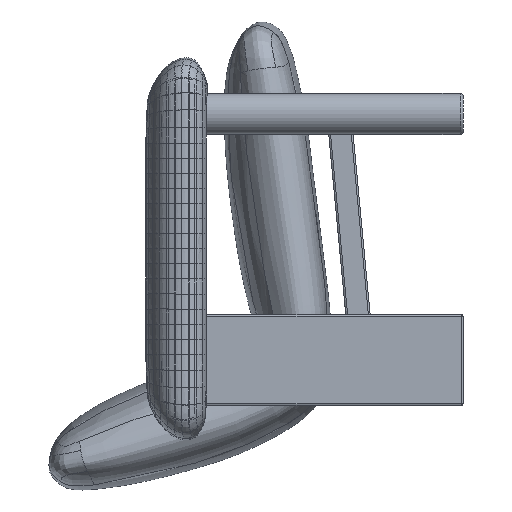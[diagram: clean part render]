
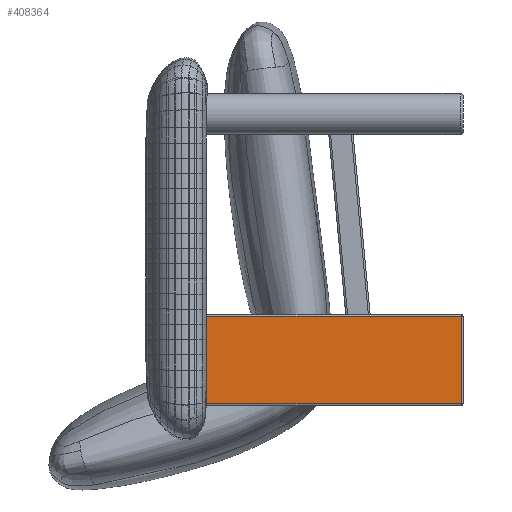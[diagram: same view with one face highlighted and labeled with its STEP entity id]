
A CAD part, left-side view. The second image highlights one B-rep face of the part: STEP entity #408364.
In plain terms, the highlighted planar face has unit normal (-1, 0, 0) as drawn and (1, 0, 0) by its records, which use the part's own axes.
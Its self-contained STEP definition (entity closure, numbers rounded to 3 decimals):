
#45889 = ORIENTED_EDGE ( 'NONE', *, *, #479339, .F. ) ;
#62338 = CARTESIAN_POINT ( 'NONE',  ( 765., 582.069, 333. ) ) ;
#102966 = VECTOR ( 'NONE', #577728, 1000. ) ;
#186983 = PLANE ( 'NONE',  #473923 ) ;
#202287 = VERTEX_POINT ( 'NONE', #555088 ) ;
#202822 = DIRECTION ( 'NONE',  ( 0., -1., 0. ) ) ;
#208187 = EDGE_CURVE ( 'NONE', #712758, #202287, #282500, .T. ) ;
#282500 = LINE ( 'NONE', #945642, #102966 ) ;
#285421 = ORIENTED_EDGE ( 'NONE', *, *, #671791, .F. ) ;
#318208 = EDGE_CURVE ( 'NONE', #495144, #202287, #457646, .T. ) ;
#351249 = FACE_OUTER_BOUND ( 'NONE', #579550, .T. ) ;
#352603 = CARTESIAN_POINT ( 'NONE',  ( 765., 430., 333. ) ) ;
#404934 = ORIENTED_EDGE ( 'NONE', *, *, #208187, .T. ) ;
#408364 = ADVANCED_FACE ( 'NONE', ( #351249 ), #186983, .F. ) ;
#409747 = VECTOR ( 'NONE', #606933, 1000. ) ;
#457646 = LINE ( 'NONE', #675547, #583178 ) ;
#471942 = DIRECTION ( 'NONE',  ( 0., 1., 0. ) ) ;
#473923 = AXIS2_PLACEMENT_3D ( 'NONE', #777468, #791765, #491714 ) ;
#479339 = EDGE_CURVE ( 'NONE', #712758, #848314, #648068, .T. ) ;
#491714 = DIRECTION ( 'NONE',  ( 0., 0., -1. ) ) ;
#495144 = VERTEX_POINT ( 'NONE', #713635 ) ;
#533202 = CARTESIAN_POINT ( 'NONE',  ( 765., 3., 333. ) ) ;
#555088 = CARTESIAN_POINT ( 'NONE',  ( 765., 430., 477. ) ) ;
#577728 = DIRECTION ( 'NONE',  ( 0., 0., 1. ) ) ;
#579550 = EDGE_LOOP ( 'NONE', ( #285421, #45889, #404934, #769232 ) ) ;
#583178 = VECTOR ( 'NONE', #471942, 1000. ) ;
#606933 = DIRECTION ( 'NONE',  ( 0., 0., 1. ) ) ;
#648068 = LINE ( 'NONE', #62338, #762230 ) ;
#671791 = EDGE_CURVE ( 'NONE', #848314, #495144, #776037, .T. ) ;
#675547 = CARTESIAN_POINT ( 'NONE',  ( 765., 582.069, 477. ) ) ;
#679571 = CARTESIAN_POINT ( 'NONE',  ( 765., 3., 330. ) ) ;
#712758 = VERTEX_POINT ( 'NONE', #352603 ) ;
#713635 = CARTESIAN_POINT ( 'NONE',  ( 765., 3., 477. ) ) ;
#762230 = VECTOR ( 'NONE', #202822, 1000. ) ;
#769232 = ORIENTED_EDGE ( 'NONE', *, *, #318208, .F. ) ;
#776037 = LINE ( 'NONE', #679571, #409747 ) ;
#777468 = CARTESIAN_POINT ( 'NONE',  ( 765., 582.069, 330. ) ) ;
#791765 = DIRECTION ( 'NONE',  ( -1., 0., 0. ) ) ;
#848314 = VERTEX_POINT ( 'NONE', #533202 ) ;
#945642 = CARTESIAN_POINT ( 'NONE',  ( 765., 430., 330. ) ) ;
